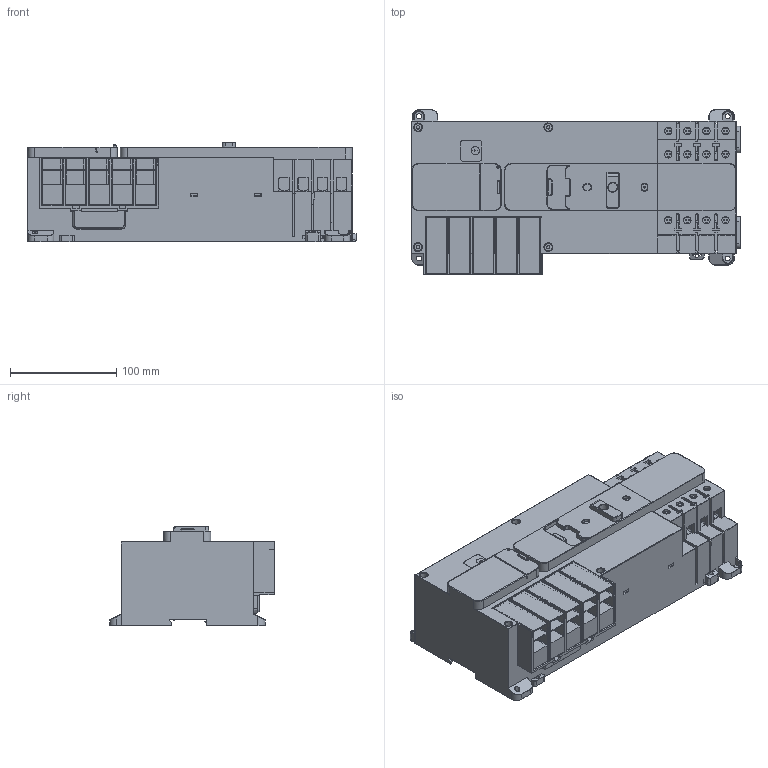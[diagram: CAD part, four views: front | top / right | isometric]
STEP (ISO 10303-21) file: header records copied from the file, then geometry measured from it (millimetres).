
FILE_DESCRIPTION((''),'2;1');
FILE_NAME('R1_IEC_4P_LCD_3D-SIMPLIFIED_ASM','2021-12-08T15:36:56',('SESA530330'),('Schneider-Electric'),'CREO PARAMETRIC BY PTC INC, 2019471','CREO PARAMETRIC BY PTC INC, 2019471','');
FILE_SCHEMA(('CONFIG_CONTROL_DESIGN'));
Products named in the file (3): R1_IEC_4P_LCD_3D-SIMPLIFIED_1; R1_IEC_4P_LCD_3D-SIMPLIFIED_ASM_ASM; R1_IEC_4P_LCD_3D-SIMPLIFIED_ASM
Assembly tree (2 placements, depth 3):
  R1_IEC_4P_LCD_3D-SIMPLIFIED_ASM
    R1_IEC_4P_LCD_3D-SIMPLIFIED_ASM_ASM
      R1_IEC_4P_LCD_3D-SIMPLIFIED_1
Bounding box: 310 x 155.3 x 94.25 mm (x, y, z)
Volume: 2969509.6 mm3; surface area: 289354.5 mm2
Topology: 1 solids, 2 shells, 1969 faces, 5385 edges, 3521 vertices
Faces by surface type: plane 1276, cylinder 489, extrusion 86, torus 50, sphere 26, bspline 22, cone 20
Entity records: 65003 total; most frequent: CARTESIAN_POINT 14944, ORIENTED_EDGE 10714, DIRECTION 9814, EDGE_CURVE 5357, VECTOR 3942, LINE 3856, VERTEX_POINT 3521, AXIS2_PLACEMENT_3D 2936
